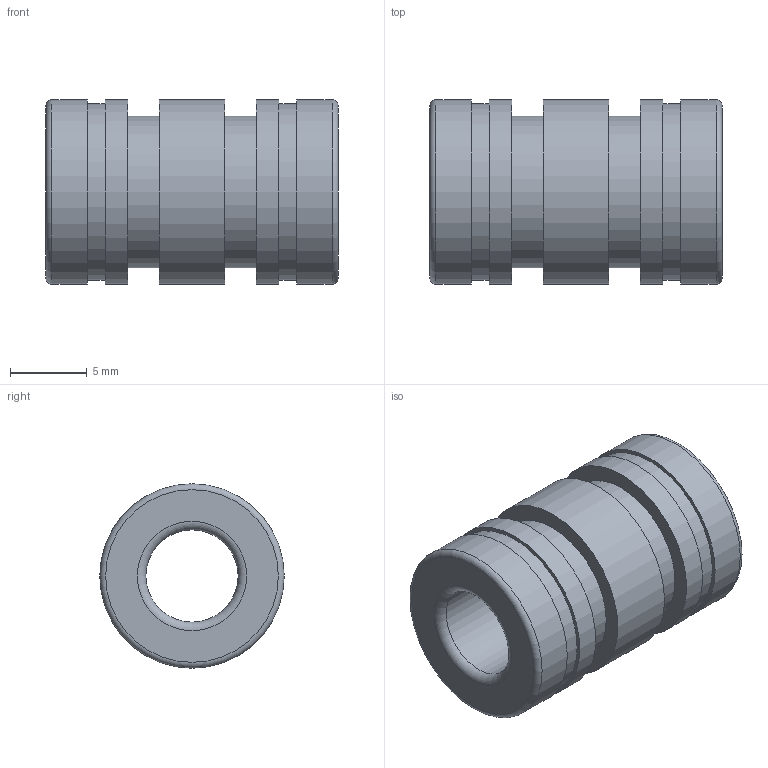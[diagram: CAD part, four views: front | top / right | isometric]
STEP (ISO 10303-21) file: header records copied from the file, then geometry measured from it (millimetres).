
FILE_DESCRIPTION(('STEP AP203'),'1');
FILE_NAME('//192.168.1.1/share/s-4 技術開発/s-4-4_CAD/s-4-4-3_見直し済み/PBC LINEAR修正済み/3D途中/FJ/FJ06.step','2022-03-24T06:59:26',(' '),(' '),'Spatial InterOp 3D',' ',' ');
FILE_SCHEMA(('CONFIG_CONTROL_DESIGN'));
Length unit declared in the file: millimetre
Products named in the file (1): 1
Bounding box: 19 x 12 x 12 mm (x, y, z)
Volume: 1436.1 mm3; surface area: 1375.9 mm2
Topology: 1 solids, 1 shells, 24 faces, 38 edges, 24 vertices
Faces by surface type: plane 10, cylinder 10, torus 4
Full cylindrical faces by diameter (mm): 6 x1, 9.859 x2, 11.5 x2, 12 x5
Entity records: 532 total; most frequent: DIRECTION 98, CARTESIAN_POINT 73, AXIS2_PLACEMENT_3D 49, EDGE_LOOP 48, ORIENTED_EDGE 48, FACE_OUTER_BOUND 38, ADVANCED_FACE 24, EDGE_CURVE 24
